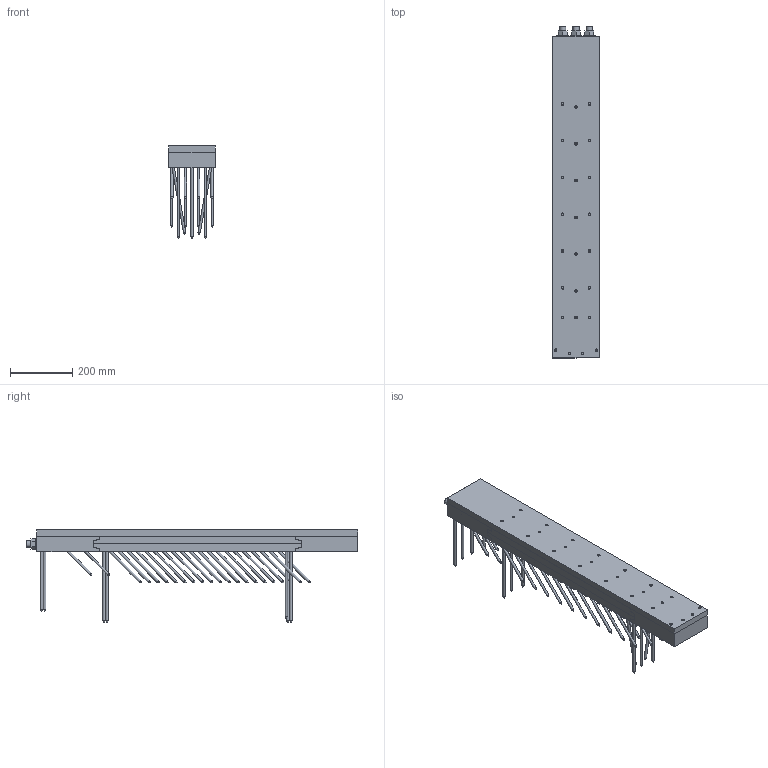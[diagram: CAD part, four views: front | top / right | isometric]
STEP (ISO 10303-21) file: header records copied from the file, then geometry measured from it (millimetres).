
FILE_DESCRIPTION(/* description */ ('Unknown'),/* implementation_level */ '2;1');
FILE_NAME(/* name */ 'MEGANT_1030x150x50_Holz-Stahl-Anschluss',/* time_stamp */ '2023-06-27T15:12:01+02:00',/* author */ ('Unknown'),/* organization */ ('Unknown'),/* preprocessor_version */ 'ST-DEVELOPER v16.7',/* originating_system */ 'Solid Edge',/* authorisation */ 'Unknown');
FILE_SCHEMA (('AUTOMOTIVE_DESIGN {1 0 10303 214 3 1 1}'));
Length unit declared in the file: millimetre
Products named in the file (18): MEGANT_1030x150x50_Holz-Stahl-Anschluss; Verbinderplatte_670x150x25_NT; SK_Schraube_8x240; Verbinderplatte_670x150x25; SK_Schraube_8x160; Verbinderplatte_670x150x25_HT_Stahl-Anschluss_18xM10x30; Verbinderplatte_670x150x25_Stahlanschluss_18xM10x30; SK_M10x30; Gewindestange_M20_L920; Mutter_M20; Beilagscheibe_M20; Spannbacke_oben_150x200x50_NT; Spannbacke_oben_150x200x50; Spannbacke_unten_150x200x50_Stahlanschluss; Spannbacke_unten_150x200x50; SK_M8x70; Stahlplatte_150x1030x20_18xM10_Bohrungen_7xM8
Assembly tree (100 placements, depth 3):
  MEGANT_1030x150x50_Holz-Stahl-Anschluss
    Verbinderplatte_670x150x25_NT
      SK_Schraube_8x240  x8
      Verbinderplatte_670x150x25
      SK_Schraube_8x160  x40
    Verbinderplatte_670x150x25_HT_Stahl-Anschluss_18xM10x30
      Verbinderplatte_670x150x25_Stahlanschluss_18xM10x30
      SK_M10x30  x18
    Gewindestange_M20_L920  x3
      Gewindestange_M20_L920
      Mutter_M20
      Beilagscheibe_M20
    Spannbacke_oben_150x200x50_NT
      Spannbacke_oben_150x200x50
      SK_Schraube_8x160  x8
      SK_Schraube_8x240  x4
    Spannbacke_unten_150x200x50_Stahlanschluss
      Spannbacke_unten_150x200x50
      SK_M8x70  x7
    Stahlplatte_150x1030x20_18xM10_Bohrungen_7xM8
Bounding box: 150 x 1065 x 299.5 mm (x, y, z)
Volume: 10600884.8 mm3; surface area: 1815087.4 mm2
Topology: 99 solids, 99 shells, 1196 faces, 2722 edges, 1743 vertices
Faces by surface type: cylinder 518, plane 361, cone 305, bspline 12
Full cylindrical faces by diameter (mm): 6.647 x14, 8 x67, 8.3 x7, 8.376 x36, 8.5 x117, 10 x18, 10.2 x18, 14 x7, 15 x177, 17.294 x3, 17.5 x6, 20 x39, 21 x6, 37 x3
Entity records: 20372 total; most frequent: CARTESIAN_POINT 3537, DIRECTION 3350, ORIENTED_EDGE 2220, FACE_BOUND 1596, EDGE_LOOP 1594, AXIS2_PLACEMENT_3D 1513, EDGE_CURVE 1110, VERTEX_POINT 980
